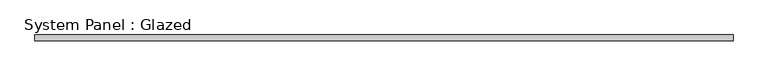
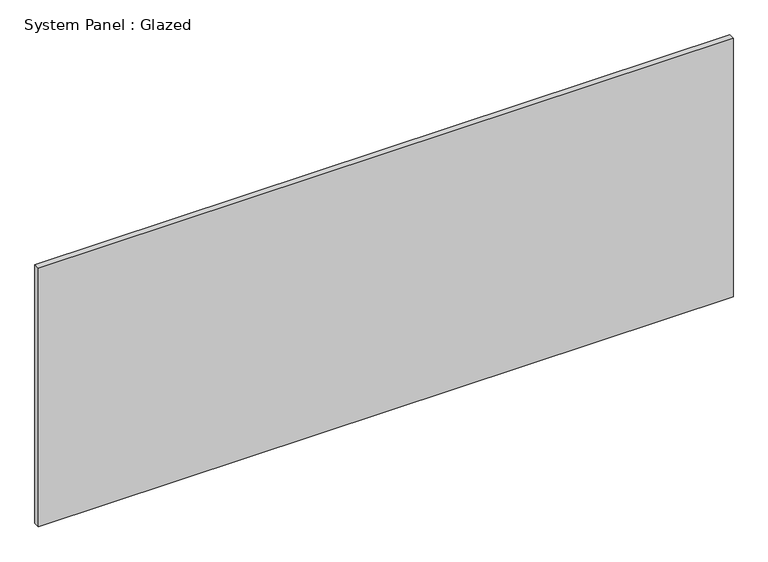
"""IFC4 building model written with IfcOpenShell, lengths in millimetres: plate geometry, System Panel : Glazed."""

from ifc_helpers import new_model, si_unit, origin, origin_with_axes, place, context, project, spatial, polyline, outline, extrude, source, transform, mapped, element, save


def system_panel_glazed_e3e91f99(model_context):
    return source(origin(), model_context, "Body", "SweptSolid", [
        extrude(outline(polyline([(1462.5, 24.5), (-1462.5, 24.5), (-1462.5, 49.5), (1462.5, 49.5), (1462.5, 24.5)])), origin_with_axes(), (0.0, 0.0, 1.0), 1150.0),
    ])


if __name__ == "__main__":
    model = new_model("IFC4")
    model_context = context("Model", 3, world=origin())
    ifc_project = project(units=[si_unit("LENGTHUNIT", "METRE", prefix="MILLI")], contexts=[model_context])
    site = spatial("IfcSite", under=ifc_project)
    building = spatial("IfcBuilding", under=site)
    placement = place(None, origin())
    system_panel_glazed_shape = system_panel_glazed_e3e91f99(model_context)
    element("IfcPlate", 1, ObjectType="System Panel : Glazed", at=placement, inside=building, context=model_context, shape_type="MappedRepresentation", body=[
        mapped(system_panel_glazed_shape, transform((0.0, 0.0, 0.0), x_axis=(1.0, 0.0, 0.0), y_axis=(0.0, 1.0, 0.0), z_axis=(0.0, 0.0, 1.0))),
    ])
    save(model, "model.ifc")
